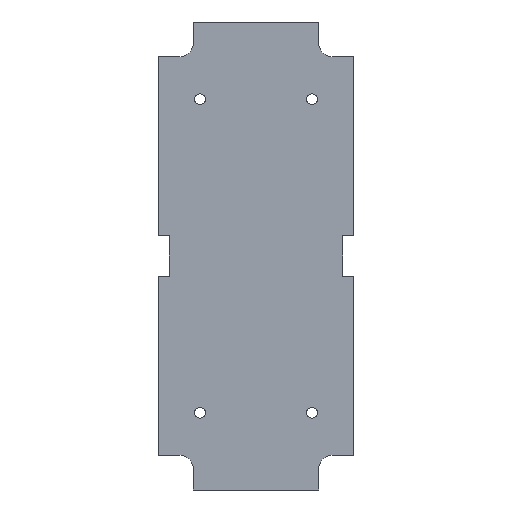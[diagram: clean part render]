
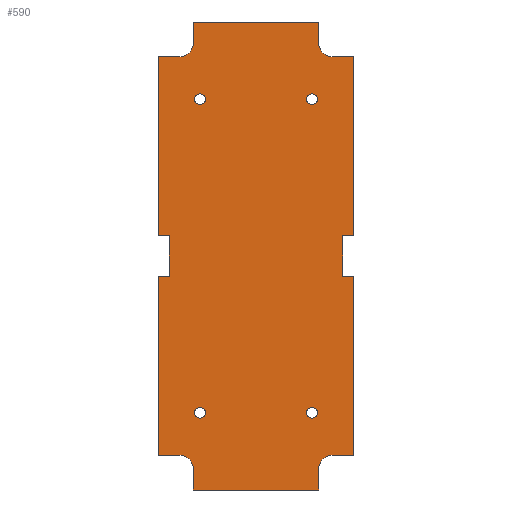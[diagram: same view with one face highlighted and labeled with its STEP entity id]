
A CAD part, front view. The second image highlights one B-rep face of the part: STEP entity #590.
In plain terms, the highlighted planar face has unit normal (0, -1, 0).
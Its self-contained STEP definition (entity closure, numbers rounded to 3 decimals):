
#23=FACE_BOUND('',#87,.T.);
#24=FACE_BOUND('',#88,.T.);
#25=FACE_BOUND('',#89,.T.);
#26=FACE_BOUND('',#90,.T.);
#31=CIRCLE('',#641,3.);
#32=CIRCLE('',#642,3.);
#33=CIRCLE('',#643,3.);
#34=CIRCLE('',#644,3.);
#35=CIRCLE('',#645,1.2);
#36=CIRCLE('',#646,1.2);
#37=CIRCLE('',#647,1.2);
#38=CIRCLE('',#648,1.2);
#56=FACE_OUTER_BOUND('',#86,.T.);
#86=EDGE_LOOP('',(#427,#428,#429,#430,#431,#432,#433,#434,#435,#436,#437,
#438,#439,#440,#441,#442,#443,#444,#445,#446,#447,#448,#449,#450));
#87=EDGE_LOOP('',(#451));
#88=EDGE_LOOP('',(#452));
#89=EDGE_LOOP('',(#453));
#90=EDGE_LOOP('',(#454));
#115=LINE('',#843,#183);
#119=LINE('',#851,#187);
#122=LINE('',#857,#190);
#125=LINE('',#864,#193);
#129=LINE('',#873,#197);
#133=LINE('',#880,#201);
#137=LINE('',#887,#205);
#140=LINE('',#893,#208);
#141=LINE('',#896,#209);
#144=LINE('',#902,#212);
#145=LINE('',#906,#213);
#146=LINE('',#908,#214);
#147=LINE('',#910,#215);
#148=LINE('',#913,#216);
#149=LINE('',#915,#217);
#150=LINE('',#919,#218);
#151=LINE('',#921,#219);
#152=LINE('',#923,#220);
#153=LINE('',#927,#221);
#154=LINE('',#928,#222);
#183=VECTOR('',#681,10.);
#187=VECTOR('',#687,10.);
#190=VECTOR('',#692,10.);
#193=VECTOR('',#697,10.);
#197=VECTOR('',#703,10.);
#201=VECTOR('',#709,10.);
#205=VECTOR('',#715,10.);
#208=VECTOR('',#720,10.);
#209=VECTOR('',#723,10.);
#212=VECTOR('',#728,10.);
#213=VECTOR('',#731,10.);
#214=VECTOR('',#732,10.);
#215=VECTOR('',#733,10.);
#216=VECTOR('',#736,10.);
#217=VECTOR('',#737,10.);
#218=VECTOR('',#740,10.);
#219=VECTOR('',#741,10.);
#220=VECTOR('',#742,10.);
#221=VECTOR('',#745,10.);
#222=VECTOR('',#746,10.);
#251=VERTEX_POINT('',#841);
#252=VERTEX_POINT('',#842);
#255=VERTEX_POINT('',#850);
#257=VERTEX_POINT('',#856);
#259=VERTEX_POINT('',#862);
#260=VERTEX_POINT('',#863);
#263=VERTEX_POINT('',#871);
#264=VERTEX_POINT('',#872);
#268=VERTEX_POINT('',#885);
#270=VERTEX_POINT('',#891);
#271=VERTEX_POINT('',#895);
#273=VERTEX_POINT('',#901);
#274=VERTEX_POINT('',#903);
#275=VERTEX_POINT('',#905);
#276=VERTEX_POINT('',#907);
#277=VERTEX_POINT('',#909);
#278=VERTEX_POINT('',#911);
#279=VERTEX_POINT('',#914);
#280=VERTEX_POINT('',#916);
#281=VERTEX_POINT('',#918);
#282=VERTEX_POINT('',#920);
#283=VERTEX_POINT('',#922);
#284=VERTEX_POINT('',#924);
#285=VERTEX_POINT('',#926);
#286=VERTEX_POINT('',#929);
#287=VERTEX_POINT('',#931);
#288=VERTEX_POINT('',#933);
#289=VERTEX_POINT('',#935);
#307=EDGE_CURVE('',#251,#252,#115,.T.);
#311=EDGE_CURVE('',#252,#255,#119,.T.);
#314=EDGE_CURVE('',#257,#251,#122,.T.);
#317=EDGE_CURVE('',#259,#260,#125,.T.);
#321=EDGE_CURVE('',#263,#264,#129,.T.);
#325=EDGE_CURVE('',#264,#259,#133,.T.);
#329=EDGE_CURVE('',#255,#268,#137,.T.);
#332=EDGE_CURVE('',#270,#260,#140,.T.);
#333=EDGE_CURVE('',#263,#271,#141,.T.);
#336=EDGE_CURVE('',#268,#273,#144,.T.);
#337=EDGE_CURVE('',#274,#273,#31,.T.);
#338=EDGE_CURVE('',#274,#275,#145,.T.);
#339=EDGE_CURVE('',#275,#276,#146,.T.);
#340=EDGE_CURVE('',#276,#277,#147,.T.);
#341=EDGE_CURVE('',#278,#277,#32,.T.);
#342=EDGE_CURVE('',#278,#271,#148,.T.);
#343=EDGE_CURVE('',#279,#270,#149,.T.);
#344=EDGE_CURVE('',#280,#279,#33,.T.);
#345=EDGE_CURVE('',#281,#280,#150,.T.);
#346=EDGE_CURVE('',#282,#281,#151,.T.);
#347=EDGE_CURVE('',#283,#282,#152,.T.);
#348=EDGE_CURVE('',#284,#283,#34,.T.);
#349=EDGE_CURVE('',#285,#284,#153,.T.);
#350=EDGE_CURVE('',#285,#257,#154,.T.);
#351=EDGE_CURVE('',#286,#286,#35,.T.);
#352=EDGE_CURVE('',#287,#287,#36,.T.);
#353=EDGE_CURVE('',#288,#288,#37,.T.);
#354=EDGE_CURVE('',#289,#289,#38,.T.);
#427=ORIENTED_EDGE('',*,*,#314,.T.);
#428=ORIENTED_EDGE('',*,*,#307,.T.);
#429=ORIENTED_EDGE('',*,*,#311,.T.);
#430=ORIENTED_EDGE('',*,*,#329,.T.);
#431=ORIENTED_EDGE('',*,*,#336,.T.);
#432=ORIENTED_EDGE('',*,*,#337,.F.);
#433=ORIENTED_EDGE('',*,*,#338,.T.);
#434=ORIENTED_EDGE('',*,*,#339,.T.);
#435=ORIENTED_EDGE('',*,*,#340,.T.);
#436=ORIENTED_EDGE('',*,*,#341,.F.);
#437=ORIENTED_EDGE('',*,*,#342,.T.);
#438=ORIENTED_EDGE('',*,*,#333,.F.);
#439=ORIENTED_EDGE('',*,*,#321,.T.);
#440=ORIENTED_EDGE('',*,*,#325,.T.);
#441=ORIENTED_EDGE('',*,*,#317,.T.);
#442=ORIENTED_EDGE('',*,*,#332,.F.);
#443=ORIENTED_EDGE('',*,*,#343,.F.);
#444=ORIENTED_EDGE('',*,*,#344,.F.);
#445=ORIENTED_EDGE('',*,*,#345,.F.);
#446=ORIENTED_EDGE('',*,*,#346,.F.);
#447=ORIENTED_EDGE('',*,*,#347,.F.);
#448=ORIENTED_EDGE('',*,*,#348,.F.);
#449=ORIENTED_EDGE('',*,*,#349,.F.);
#450=ORIENTED_EDGE('',*,*,#350,.T.);
#451=ORIENTED_EDGE('',*,*,#351,.F.);
#452=ORIENTED_EDGE('',*,*,#352,.F.);
#453=ORIENTED_EDGE('',*,*,#353,.T.);
#454=ORIENTED_EDGE('',*,*,#354,.T.);
#568=PLANE('',#640);
#590=ADVANCED_FACE('',(#56,#23,#24,#25,#26),#568,.F.);
#640=AXIS2_PLACEMENT_3D('',#900,#726,#727);
#641=AXIS2_PLACEMENT_3D('',#904,#729,#730);
#642=AXIS2_PLACEMENT_3D('',#912,#734,#735);
#643=AXIS2_PLACEMENT_3D('',#917,#738,#739);
#644=AXIS2_PLACEMENT_3D('',#925,#743,#744);
#645=AXIS2_PLACEMENT_3D('',#930,#747,#748);
#646=AXIS2_PLACEMENT_3D('',#932,#749,#750);
#647=AXIS2_PLACEMENT_3D('',#934,#751,#752);
#648=AXIS2_PLACEMENT_3D('',#936,#753,#754);
#681=DIRECTION('',(0.,0.,1.));
#687=DIRECTION('',(1.,0.,0.));
#692=DIRECTION('',(-1.,0.,0.));
#697=DIRECTION('',(-1.,0.,0.));
#703=DIRECTION('',(1.,0.,0.));
#709=DIRECTION('',(0.,0.,-1.));
#715=DIRECTION('',(0.,0.,1.));
#720=DIRECTION('',(0.,0.,1.));
#723=DIRECTION('',(0.,0.,1.));
#726=DIRECTION('center_axis',(0.,1.,0.));
#727=DIRECTION('ref_axis',(0.,0.,1.));
#728=DIRECTION('',(-1.,0.,0.));
#729=DIRECTION('center_axis',(0.,-1.,0.));
#730=DIRECTION('ref_axis',(-0.707,0.,-0.707));
#731=DIRECTION('',(0.,0.,1.));
#732=DIRECTION('',(-1.,0.,0.));
#733=DIRECTION('',(0.,0.,-1.));
#734=DIRECTION('center_axis',(0.,-1.,0.));
#735=DIRECTION('ref_axis',(0.707,0.,-0.707));
#736=DIRECTION('',(-1.,0.,0.));
#737=DIRECTION('',(-1.,0.,0.));
#738=DIRECTION('center_axis',(0.,-1.,0.));
#739=DIRECTION('ref_axis',(0.707,0.,0.707));
#740=DIRECTION('',(0.,0.,1.));
#741=DIRECTION('',(-1.,0.,0.));
#742=DIRECTION('',(0.,0.,-1.));
#743=DIRECTION('center_axis',(0.,-1.,0.));
#744=DIRECTION('ref_axis',(-0.707,0.,0.707));
#745=DIRECTION('',(-1.,0.,0.));
#746=DIRECTION('',(0.,0.,1.));
#747=DIRECTION('center_axis',(0.,-1.,0.));
#748=DIRECTION('ref_axis',(1.,0.,0.));
#749=DIRECTION('center_axis',(0.,-1.,0.));
#750=DIRECTION('ref_axis',(1.,0.,0.));
#751=DIRECTION('center_axis',(0.,1.,0.));
#752=DIRECTION('ref_axis',(1.,0.,0.));
#753=DIRECTION('center_axis',(0.,1.,0.));
#754=DIRECTION('ref_axis',(1.,0.,0.));
#841=CARTESIAN_POINT('',(19.358,0.,-4.5));
#842=CARTESIAN_POINT('',(19.358,0.,4.5));
#843=CARTESIAN_POINT('',(19.358,0.,-10.813));
#850=CARTESIAN_POINT('',(21.858,0.,4.5));
#851=CARTESIAN_POINT('',(10.929,0.,4.5));
#856=CARTESIAN_POINT('',(21.858,0.,-4.5));
#857=CARTESIAN_POINT('',(9.679,0.,-4.5));
#862=CARTESIAN_POINT('',(-19.358,0.,-4.5));
#863=CARTESIAN_POINT('',(-21.858,0.,-4.5));
#864=CARTESIAN_POINT('',(-10.929,0.,-4.5));
#871=CARTESIAN_POINT('',(-21.858,0.,4.5));
#872=CARTESIAN_POINT('',(-19.358,0.,4.5));
#873=CARTESIAN_POINT('',(-9.679,0.,4.5));
#880=CARTESIAN_POINT('',(-19.358,0.,-15.313));
#885=CARTESIAN_POINT('',(21.858,0.,44.5));
#887=CARTESIAN_POINT('',(21.858,0.,0.));
#891=CARTESIAN_POINT('',(-21.858,0.,-44.5));
#893=CARTESIAN_POINT('',(-21.858,0.,-44.5));
#895=CARTESIAN_POINT('',(-21.858,0.,44.5));
#896=CARTESIAN_POINT('',(-21.858,0.,-44.5));
#900=CARTESIAN_POINT('Origin',(0.,0.,-26.125));
#901=CARTESIAN_POINT('',(17.,0.,44.5));
#902=CARTESIAN_POINT('',(21.858,0.,44.5));
#903=CARTESIAN_POINT('',(14.,0.,47.5));
#904=CARTESIAN_POINT('Origin',(17.,0.,47.5));
#905=CARTESIAN_POINT('',(14.,0.,52.25));
#906=CARTESIAN_POINT('',(14.,0.,44.5));
#907=CARTESIAN_POINT('',(-14.,0.,52.25));
#908=CARTESIAN_POINT('',(14.,0.,52.25));
#909=CARTESIAN_POINT('',(-14.,0.,47.5));
#910=CARTESIAN_POINT('',(-14.,0.,52.25));
#911=CARTESIAN_POINT('',(-17.,0.,44.5));
#912=CARTESIAN_POINT('Origin',(-17.,0.,47.5));
#913=CARTESIAN_POINT('',(-14.,0.,44.5));
#914=CARTESIAN_POINT('',(-17.,0.,-44.5));
#915=CARTESIAN_POINT('',(-14.,0.,-44.5));
#916=CARTESIAN_POINT('',(-14.,0.,-47.5));
#917=CARTESIAN_POINT('Origin',(-17.,0.,-47.5));
#918=CARTESIAN_POINT('',(-14.,0.,-52.25));
#919=CARTESIAN_POINT('',(-14.,0.,-52.25));
#920=CARTESIAN_POINT('',(14.,0.,-52.25));
#921=CARTESIAN_POINT('',(14.,0.,-52.25));
#922=CARTESIAN_POINT('',(14.,0.,-47.5));
#923=CARTESIAN_POINT('',(14.,0.,-44.5));
#924=CARTESIAN_POINT('',(17.,0.,-44.5));
#925=CARTESIAN_POINT('Origin',(17.,0.,-47.5));
#926=CARTESIAN_POINT('',(21.858,0.,-44.5));
#927=CARTESIAN_POINT('',(21.858,0.,-44.5));
#928=CARTESIAN_POINT('',(21.858,0.,0.));
#929=CARTESIAN_POINT('',(11.3,0.,-35.));
#930=CARTESIAN_POINT('Origin',(12.5,0.,-35.));
#931=CARTESIAN_POINT('',(-13.7,0.,-35.));
#932=CARTESIAN_POINT('Origin',(-12.5,0.,-35.));
#933=CARTESIAN_POINT('',(-13.7,0.,35.));
#934=CARTESIAN_POINT('Origin',(-12.5,0.,35.));
#935=CARTESIAN_POINT('',(11.3,0.,35.));
#936=CARTESIAN_POINT('Origin',(12.5,0.,35.));
